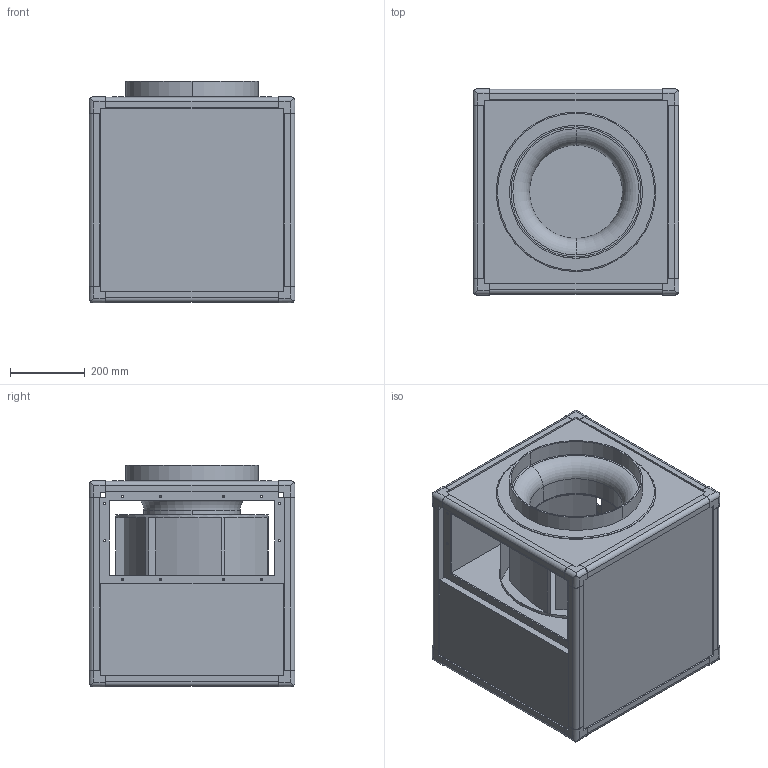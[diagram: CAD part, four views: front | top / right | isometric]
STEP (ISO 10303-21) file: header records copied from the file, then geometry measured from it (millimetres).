
FILE_DESCRIPTION(('STEP AP214'),'1');
FILE_NAME('fan_5148466200.stp','2017-09-06T16:17:43',('TraceParts'),('TraceParts S.A.'),'Spatial InterOp 3D',' ',' ');
FILE_SCHEMA(('automotive_design'));
Length unit declared in the file: millimetre
Products named in the file (1): fan_5148466200
Bounding box: 550 x 550 x 592 mm (x, y, z)
Volume: 38582888 mm3; surface area: 4487831.6 mm2
Topology: 1 solids, 1 shells, 730 faces, 2189 edges, 1419 vertices
Faces by surface type: plane 610, cylinder 114, torus 6
Entity records: 28118 total; most frequent: ORIENTED_EDGE 4378, CARTESIAN_POINT 4339, DIRECTION 3912, EDGE_CURVE 2189, LINE 1928, VECTOR 1928, VERTEX_POINT 1419, AXIS2_PLACEMENT_3D 992
